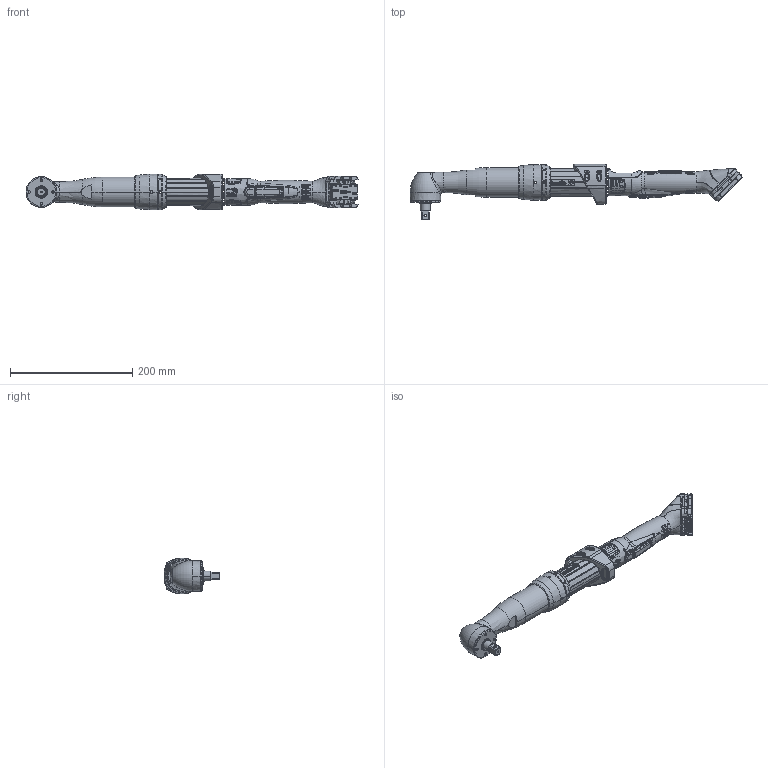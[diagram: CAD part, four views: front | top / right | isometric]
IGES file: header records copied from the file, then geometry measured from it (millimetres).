
Start section:  PTC IGES file: 6151663300_dim.igs
Global section: file name: 6151663300_dim.igs; native system: Creo Parametric by PTC Inc.; preprocessor: 2023494; author: SYSTEM; organization: Unknown; date: 20260210.142042; units: millimetre
Bounding box: 543.53 x 91.4 x 58.7 mm (x, y, z)
Surface area: 101576 mm2 (no closed solid volume)
Topology: 0 solids, 0 shells, 2831 faces, 15502 edges, 15488 vertices
Faces by surface type: bspline 2224, revolution 596, extrusion 11
